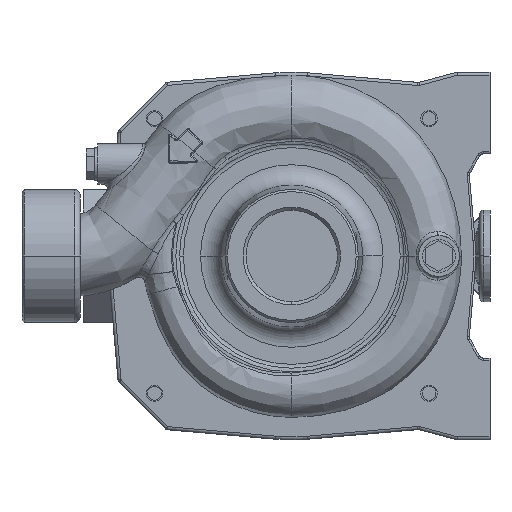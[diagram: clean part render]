
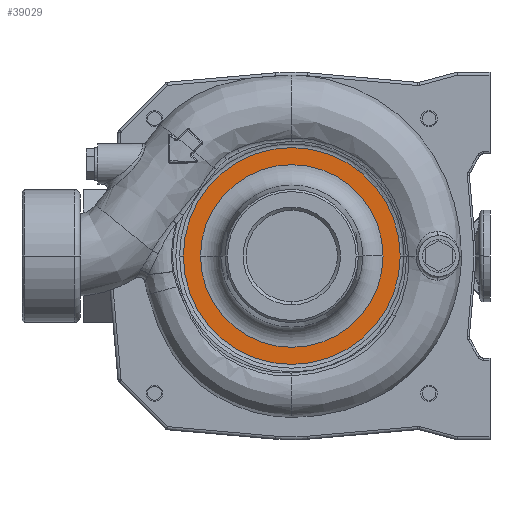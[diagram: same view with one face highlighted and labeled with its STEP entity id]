
A CAD part, left-side view. The second image highlights one B-rep face of the part: STEP entity #39029.
In plain terms, the highlighted planar face has unit normal (-1, 0, 0) as drawn and (0, 0, 1) by its records, which use the part's own axes.
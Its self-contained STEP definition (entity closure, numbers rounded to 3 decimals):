
#30200=CARTESIAN_POINT('',(0.,0.,10.5));
#30201=DIRECTION('',(0.,0.,-1.));
#30202=DIRECTION('',(0.,-1.,0.));
#30203=AXIS2_PLACEMENT_3D('',#30200,#30201,#30202);
#30205=CARTESIAN_POINT('',(0.,0.,10.5));
#30206=DIRECTION('',(0.,0.,-1.));
#30207=DIRECTION('',(0.,1.,0.));
#30208=AXIS2_PLACEMENT_3D('',#30205,#30206,#30207);
#30210=CARTESIAN_POINT('',(0.,0.,10.5));
#30211=DIRECTION('',(0.,0.,-1.));
#30212=DIRECTION('',(0.,-1.,0.));
#30213=AXIS2_PLACEMENT_3D('',#30210,#30211,#30212);
#30215=CARTESIAN_POINT('',(0.,0.,10.5));
#30216=DIRECTION('',(0.,0.,-1.));
#30217=DIRECTION('',(0.,1.,0.));
#30218=AXIS2_PLACEMENT_3D('',#30215,#30216,#30217);
#31474=CARTESIAN_POINT('',(0.,-44.682,10.5));
#31475=CARTESIAN_POINT('',(0.,44.682,10.5));
#31476=VERTEX_POINT('',#31474);
#31477=VERTEX_POINT('',#31475);
#32102=CARTESIAN_POINT('',(0.,-53.063,10.5));
#32103=CARTESIAN_POINT('',(0.,53.063,10.5));
#32104=VERTEX_POINT('',#32102);
#32105=VERTEX_POINT('',#32103);
#39014=CARTESIAN_POINT('',(0.,0.,10.5));
#39015=DIRECTION('',(0.,0.,1.));
#39016=DIRECTION('',(0.,1.,0.));
#39017=AXIS2_PLACEMENT_3D('',#39014,#39015,#39016);
#39018=PLANE('',#39017);
#39019=ORIENTED_EDGE('',*,*,#39008,.T.);
#39020=ORIENTED_EDGE('',*,*,#38993,.T.);
#39021=EDGE_LOOP('',(#39019,#39020));
#39022=FACE_OUTER_BOUND('',#39021,.F.);
#39024=ORIENTED_EDGE('',*,*,#39023,.F.);
#39026=ORIENTED_EDGE('',*,*,#39025,.F.);
#39027=EDGE_LOOP('',(#39024,#39026));
#39028=FACE_BOUND('',#39027,.F.);
#30204=CIRCLE('',#30203,53.063);
#30209=CIRCLE('',#30208,53.063);
#30214=CIRCLE('',#30213,44.682);
#30219=CIRCLE('',#30218,44.682);
#38993=EDGE_CURVE('',#32105,#32104,#30209,.T.);
#39008=EDGE_CURVE('',#32104,#32105,#30204,.T.);
#39023=EDGE_CURVE('',#31476,#31477,#30214,.T.);
#39025=EDGE_CURVE('',#31477,#31476,#30219,.T.);
#39029=ADVANCED_FACE('',(#39022,#39028),#39018,.T.);
